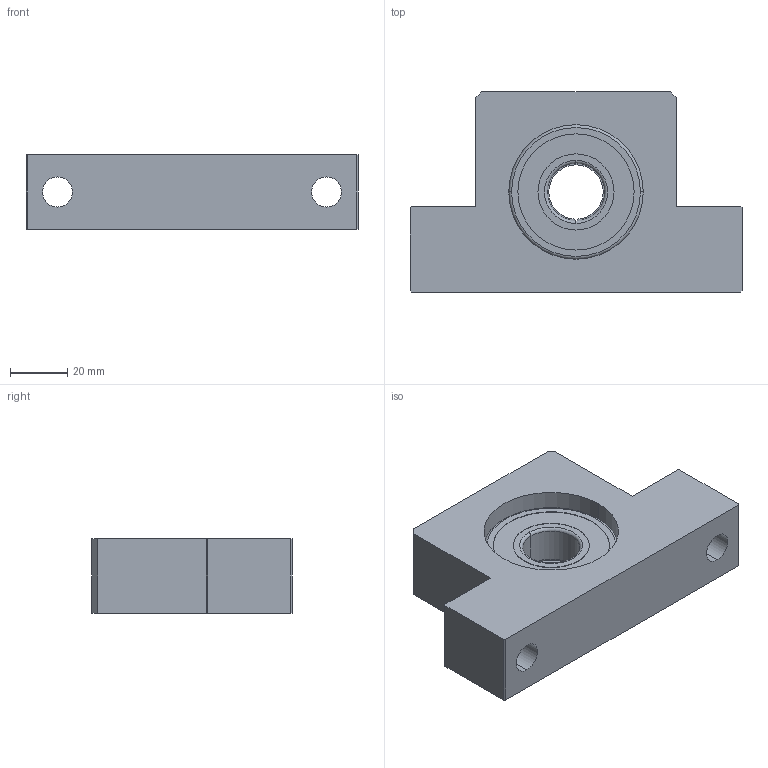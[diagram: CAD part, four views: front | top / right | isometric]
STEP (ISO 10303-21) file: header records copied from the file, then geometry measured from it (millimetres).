
FILE_DESCRIPTION (( 'STEP AP214' ), '1' );
FILE_NAME ('F-SBU-20.60.STEP', '2023-04-10T09:26:08', ( '' ), ( '' ), 'SwSTEP 2.0', 'SolidWorks 2021', '' );
FILE_SCHEMA (( 'AUTOMOTIVE_DESIGN' ));
Length unit declared in the file: millimetre
Products named in the file (9): 6204ZZ Shield2; F-SBU-20.60 BODY; STWN20; 6204ZZ Ball; 6204ZZ Inner ring; F-SBU-20.60; 6204ZZ Outer ring; 6204ZZ; 6204ZZ Shield1
Assembly tree (20 placements, depth 3):
  F-SBU-20.60
    F-SBU-20.60 BODY
    6204ZZ
      6204ZZ Shield2
      6204ZZ Ball  x13
      6204ZZ Inner ring
      6204ZZ Shield1
      6204ZZ Outer ring
    STWN20
Bounding box: 116 x 70 x 26 mm (x, y, z)
Volume: 127382.5 mm3; surface area: 37219.6 mm2
Topology: 19 solids, 19 shells, 119 faces, 304 edges, 201 vertices
Faces by surface type: cylinder 45, plane 34, sphere 26, torus 14
Entity records: 3185 total; most frequent: DIRECTION 569, CARTESIAN_POINT 472, ORIENTED_EDGE 430, AXIS2_PLACEMENT_3D 235, EDGE_CURVE 215, VERTEX_POINT 138, EDGE_LOOP 117, CIRCLE 116
